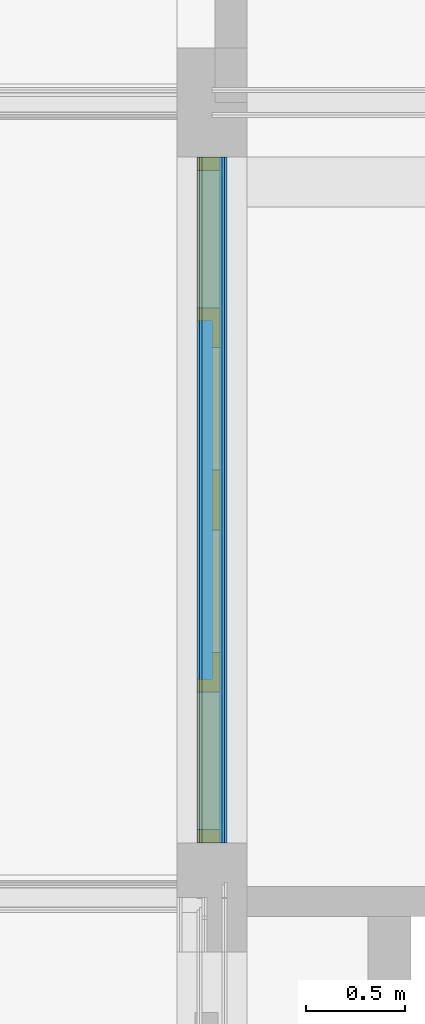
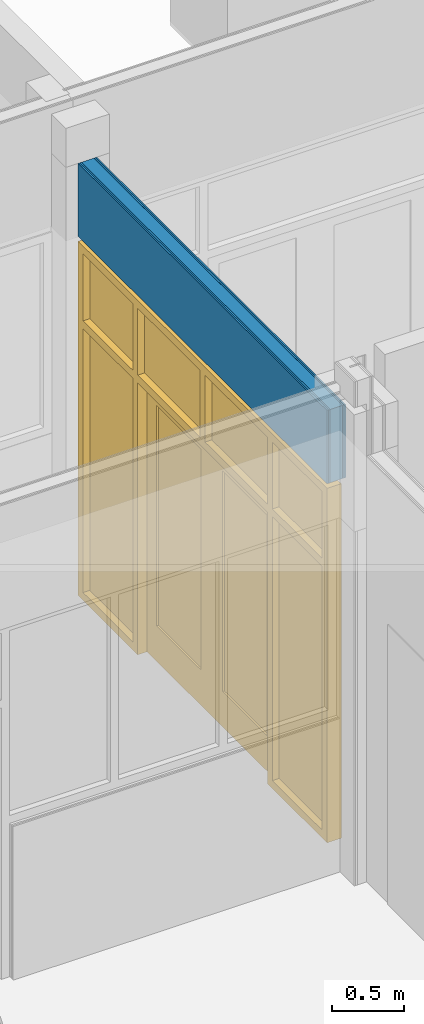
# One storey, part 41 of 54: 5 building element parts, 1 door, 1 opening, 1 element without a shape of its own.
"""IFC2X3 building model written with IfcOpenShell, lengths in millimetres."""

from ifc_helpers import new_model, entity, si_unit, converted_unit, derived_unit, money_unit, direction, frame, origin_with_axes, place, context, subcontext, project, spatial, open_shell, faceted_brep, surface_model, material, type_object, element, fill, aggregate, save


model = new_model("IFC2X3")

# Units and contexts
model_context = context("Model", 3, precision=0.01, world=origin_with_axes(), true_north=direction((0.0, 1.0)))
body_context = subcontext(model_context, "Body", "Model", "MODEL_VIEW")
ifc_project = project(units=[si_unit("LENGTHUNIT", "METRE", prefix="MILLI"), si_unit("AREAUNIT", "SQUARE_METRE"), si_unit("VOLUMEUNIT", "CUBIC_METRE"), converted_unit("PLANEANGLEUNIT", "DEGREE", entity("IfcPlaneAngleMeasure", 0.0174532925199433), si_unit("PLANEANGLEUNIT", "RADIAN"), dimensions=[0, 0, 0, 0, 0, 0, 0]), money_unit("EUR"), converted_unit("TIMEUNIT", "Year", entity("IfcTimeMeasure", 31557600.0), si_unit("TIMEUNIT", "SECOND"), dimensions=[0, 0, 1, 0, 0, 0, 0]), si_unit("MASSUNIT", "GRAM", prefix="KILO"), si_unit("THERMODYNAMICTEMPERATUREUNIT", "DEGREE_CELSIUS"), si_unit("LUMINOUSINTENSITYUNIT", "LUMEN"), si_unit("ENERGYUNIT", "JOULE", prefix="MEGA"), derived_unit("THERMALCONDUCTANCEUNIT", [(si_unit("POWERUNIT", "WATT"), 1), (si_unit("LENGTHUNIT", "METRE"), -1), (si_unit("THERMODYNAMICTEMPERATUREUNIT", "KELVIN"), -1)]), derived_unit("SPECIFICHEATCAPACITYUNIT", [(si_unit("ENERGYUNIT", "JOULE"), 1), (si_unit("MASSUNIT", "GRAM", prefix="KILO"), -1), (si_unit("THERMODYNAMICTEMPERATUREUNIT", "KELVIN"), -1)]), derived_unit("MASSDENSITYUNIT", [(si_unit("MASSUNIT", "GRAM", prefix="KILO"), 1), (si_unit("VOLUMEUNIT", "CUBIC_METRE"), -1)])], contexts=[model_context])

# Site, building, storey
site_placement = place(None, origin_with_axes())
site = spatial("IfcSite", under=ifc_project, at=site_placement, Name="<site naam>", CompositionType="ELEMENT")
building_placement = place(site_placement, origin_with_axes())
building = spatial("IfcBuilding", under=site, at=building_placement, Name="<Naam gebouw>", CompositionType="ELEMENT")
storey_placement = place(building_placement, frame((0.0, 0.0, 8500.0), z_axis=(0.0, 0.0, 1.0), x_axis=(1.0, 0.0, 0.0)))
storey = spatial("IfcBuildingStorey", under=building, at=storey_placement, Name="02 2e verdieping", CompositionType="ELEMENT", Elevation=8500.0)

# Door
door_style = type_object("IfcDoorStyle", Name="D2 bl zl2 27", ConstructionType="NOTDEFINED", OperationType="USERDEFINED", ParameterTakesPrecedence=False, Sizeable=False)
wall_placement = place(storey_placement, frame((48000.00000000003, 8275.000000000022, 0.0), z_axis=(0.0, 0.0, 1.0), x_axis=(0.0, 1.0, 0.0)))
opening_placement = place(wall_placement, frame((1725.000000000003, 0.0, 0.0), z_axis=(0.0, 0.0, 1.0), x_axis=(1.0, 0.0, 0.0)))
door_placement = place(opening_placement, frame((1724.999999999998, 0.0, 0.0), z_axis=(0.0, 0.0, 1.0), x_axis=(-1.0, 0.0, 0.0)))
door = element("IfcDoor", 1, at=door_placement, inside=storey, type_object=door_style, Name="22_BI-D-03_305", ObjectType="DOOR", OverallHeight=3000.0, OverallWidth=3450.0, context=body_context, shape_type="SurfaceModel", body=[
    faceted_brep([(3449.999999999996, 39.00000000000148, 0.0), (3449.999999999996, -74.99999999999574, 0.0), (3382.999999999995, -74.99999999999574, 0.0), (3382.999999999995, 39.00000000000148, 0.0), (3449.999999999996, 39.00000000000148, 2933.0), (3449.999999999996, -74.99999999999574, 2933.0), (3382.999999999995, -74.99999999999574, 2933.0), (3382.999999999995, -74.99999999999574, 2367.000000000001), (3382.999999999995, -74.99999999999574, 2300.000000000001), (3382.999999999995, -74.99999999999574, 67.00000000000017), (3382.999999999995, 39.00000000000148, 67.00000000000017), (3382.999999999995, 39.00000000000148, 2300.000000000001), (3382.999999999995, 39.00000000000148, 2367.000000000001), (3382.999999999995, 39.00000000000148, 2933.0)], [[[0, 1, 2, 3]], [[4, 5, 1, 0]], [[1, 5, 6, 7, 8, 9, 2]], [[3, 2, 9, 10]], [[0, 3, 10, 11, 12, 13, 4]], [[13, 6, 5, 4]], [[12, 7, 6, 13]], [[11, 8, 7, 12]], [[10, 9, 8, 11]]]),
    faceted_brep([(2624.999999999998, -0.9999999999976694, 2317.0), (2624.999999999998, -0.9999999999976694, 2300.000000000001), (2624.999999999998, -74.99999999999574, 2300.000000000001), (2624.999999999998, -74.99999999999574, 2367.000000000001), (2624.999999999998, 39.00000000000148, 2367.000000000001), (2624.999999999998, 39.00000000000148, 2317.0), (2641.999999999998, -0.9999999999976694, 2317.0), (2641.999999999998, -0.9999999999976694, 0.0), (2624.999999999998, -0.9999999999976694, 0.0), (2624.999999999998, -74.99999999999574, 0.0), (2691.999999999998, -74.99999999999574, 0.0), (2691.999999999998, -74.99999999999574, 67.00000000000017), (2691.999999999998, -74.99999999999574, 2300.000000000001), (2691.999999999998, -74.99999999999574, 2367.000000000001), (2691.999999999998, -74.99999999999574, 2933.0), (2624.999999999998, -74.99999999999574, 2933.0), (2624.999999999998, 39.00000000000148, 2933.0), (2641.999999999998, 39.00000000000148, 2317.0), (2691.999999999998, 39.00000000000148, 2933.0), (2691.999999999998, 39.00000000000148, 2367.000000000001), (2691.999999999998, 39.00000000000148, 2300.000000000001), (2691.999999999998, 39.00000000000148, 67.00000000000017), (2691.999999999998, 39.00000000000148, 0.0), (2641.999999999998, 39.00000000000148, 0.0)], [[[0, 1, 2, 3, 4, 5]], [[0, 6, 7, 8, 1]], [[8, 9, 2, 1]], [[2, 9, 10, 11, 12, 13, 14, 15, 3]], [[16, 4, 3, 15]], [[17, 5, 4, 16, 18, 19, 20, 21, 22, 23]], [[5, 17, 6, 0]], [[23, 7, 6, 17]], [[7, 23, 22, 10, 9, 8]], [[22, 21, 11, 10]], [[21, 20, 12, 11]], [[20, 19, 13, 12]], [[19, 18, 14, 13]], [[18, 16, 15, 14]]]),
    faceted_brep([(3382.999999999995, 39.00000000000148, 67.00000000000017), (3382.999999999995, -74.99999999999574, 67.00000000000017), (3382.999999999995, -74.99999999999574, 0.0), (3382.999999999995, 39.00000000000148, 0.0), (2691.999999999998, 39.00000000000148, 67.00000000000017), (2691.999999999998, -74.99999999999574, 67.00000000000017), (2691.999999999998, -74.99999999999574, 0.0), (2691.999999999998, 39.00000000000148, 0.0)], [[[0, 1, 2, 3]], [[4, 5, 1, 0]], [[1, 5, 6, 2]], [[3, 2, 6, 7]], [[0, 3, 7, 4]], [[7, 6, 5, 4]]]),
    faceted_brep([(0.0, 39.00000000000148, 0.0), (0.0, -74.99999999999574, 0.0), (0.0, -74.99999999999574, 2933.0), (0.0, 39.00000000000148, 2933.0), (67.00000000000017, 39.00000000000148, 0.0), (67.00000000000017, -74.99999999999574, 0.0), (67.00000000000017, -74.99999999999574, 67.00000000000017), (67.00000000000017, -74.99999999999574, 2300.000000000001), (67.00000000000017, -74.99999999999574, 2367.000000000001), (67.00000000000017, -74.99999999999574, 2933.0), (67.00000000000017, 39.00000000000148, 2933.0), (67.00000000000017, 39.00000000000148, 2367.000000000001), (67.00000000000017, 39.00000000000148, 2300.000000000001), (67.00000000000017, 39.00000000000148, 67.00000000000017)], [[[0, 1, 2, 3]], [[4, 5, 1, 0]], [[1, 5, 6, 7, 8, 9, 2]], [[3, 2, 9, 10]], [[0, 3, 10, 11, 12, 13, 4]], [[13, 6, 5, 4]], [[12, 7, 6, 13]], [[11, 8, 7, 12]], [[10, 9, 8, 11]]]),
    faceted_brep([(807.9999999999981, 39.00000000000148, 2317.0), (807.9999999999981, 39.00000000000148, 0.0), (757.9999999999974, 39.00000000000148, 0.0), (757.9999999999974, 39.00000000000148, 67.00000000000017), (757.9999999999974, 39.00000000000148, 2300.000000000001), (757.9999999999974, 39.00000000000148, 2367.000000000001), (757.9999999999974, 39.00000000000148, 2933.0), (824.9999999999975, 39.00000000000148, 2933.0), (824.9999999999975, 39.00000000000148, 2367.000000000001), (824.9999999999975, 39.00000000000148, 2317.0), (807.9999999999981, -0.9999999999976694, 2317.0), (807.9999999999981, -0.9999999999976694, 0.0), (824.9999999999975, -0.9999999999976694, 0.0), (824.9999999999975, -74.99999999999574, 0.0), (757.9999999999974, -74.99999999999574, 0.0), (757.9999999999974, -74.99999999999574, 67.00000000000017), (757.9999999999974, -74.99999999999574, 2300.000000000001), (757.9999999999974, -74.99999999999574, 2367.000000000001), (757.9999999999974, -74.99999999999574, 2933.0), (824.9999999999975, -74.99999999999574, 2933.0), (824.9999999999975, -74.99999999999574, 2367.000000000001), (824.9999999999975, -0.9999999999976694, 2317.0), (824.9999999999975, -74.99999999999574, 2300.000000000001), (824.9999999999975, -0.9999999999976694, 2300.000000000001)], [[[0, 1, 2, 3, 4, 5, 6, 7, 8, 9]], [[0, 10, 11, 1]], [[11, 12, 13, 14, 2, 1]], [[3, 2, 14, 15]], [[4, 3, 15, 16]], [[5, 4, 16, 17]], [[6, 5, 17, 18]], [[7, 6, 18, 19]], [[8, 7, 19, 20]], [[21, 9, 8, 20, 22, 23]], [[9, 21, 10, 0]], [[11, 10, 21, 23, 12]], [[23, 22, 13, 12]], [[15, 14, 13, 22, 20, 19, 18, 17, 16]]]),
    faceted_brep([(757.9999999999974, 39.00000000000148, 67.00000000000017), (757.9999999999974, -74.99999999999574, 67.00000000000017), (757.9999999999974, -74.99999999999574, 0.0), (757.9999999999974, 39.00000000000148, 0.0), (67.00000000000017, 39.00000000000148, 67.00000000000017), (67.00000000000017, -74.99999999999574, 67.00000000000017), (67.00000000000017, -74.99999999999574, 0.0), (67.00000000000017, 39.00000000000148, 0.0)], [[[0, 1, 2, 3]], [[4, 5, 1, 0]], [[1, 5, 6, 2]], [[3, 2, 6, 7]], [[0, 3, 7, 4]], [[7, 6, 5, 4]]]),
    faceted_brep([(3449.999999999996, 39.00000000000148, 3000.0), (3449.999999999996, -74.99999999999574, 3000.0), (3449.999999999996, -74.99999999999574, 2933.0), (3449.999999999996, 39.00000000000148, 2933.0), (0.0, 39.00000000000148, 3000.0), (0.0, -74.99999999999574, 3000.0), (0.0, -74.99999999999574, 2933.0), (67.00000000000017, -74.99999999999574, 2933.0), (757.9999999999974, -74.99999999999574, 2933.0), (824.9999999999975, -74.99999999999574, 2933.0), (2624.999999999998, -74.99999999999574, 2933.0), (2691.999999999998, -74.99999999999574, 2933.0), (3382.999999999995, -74.99999999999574, 2933.0), (3382.999999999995, 39.00000000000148, 2933.0), (2691.999999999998, 39.00000000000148, 2933.0), (2624.999999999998, 39.00000000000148, 2933.0), (824.9999999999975, 39.00000000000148, 2933.0), (757.9999999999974, 39.00000000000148, 2933.0), (67.00000000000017, 39.00000000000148, 2933.0), (0.0, 39.00000000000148, 2933.0)], [[[0, 1, 2, 3]], [[4, 5, 1, 0]], [[1, 5, 6, 7, 8, 9, 10, 11, 12, 2]], [[3, 2, 12, 13]], [[0, 3, 13, 14, 15, 16, 17, 18, 19, 4]], [[19, 6, 5, 4]], [[18, 7, 6, 19]], [[17, 8, 7, 18]], [[16, 9, 8, 17]], [[15, 10, 9, 16]], [[14, 11, 10, 15]], [[13, 12, 11, 14]]]),
    faceted_brep([(3382.999999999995, 39.00000000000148, 2300.000000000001), (3382.999999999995, -74.99999999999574, 2300.000000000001), (2691.999999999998, -74.99999999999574, 2300.000000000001), (2691.999999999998, 39.00000000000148, 2300.000000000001), (3382.999999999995, 39.00000000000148, 2367.000000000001), (3382.999999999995, -74.99999999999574, 2367.000000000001), (2691.999999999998, -74.99999999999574, 2367.000000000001), (2691.999999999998, 39.00000000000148, 2367.000000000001)], [[[0, 1, 2, 3]], [[4, 5, 1, 0]], [[1, 5, 6, 2]], [[3, 2, 6, 7]], [[0, 3, 7, 4]], [[7, 6, 5, 4]]]),
    faceted_brep([(67.00000000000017, 39.00000000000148, 2367.000000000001), (67.00000000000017, -74.99999999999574, 2367.000000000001), (757.9999999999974, -74.99999999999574, 2367.000000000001), (757.9999999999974, 39.00000000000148, 2367.000000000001), (67.00000000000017, 39.00000000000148, 2300.000000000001), (67.00000000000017, -74.99999999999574, 2300.000000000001), (757.9999999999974, -74.99999999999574, 2300.000000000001), (757.9999999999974, 39.00000000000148, 2300.000000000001)], [[[0, 1, 2, 3]], [[4, 5, 1, 0]], [[1, 5, 6, 2]], [[3, 2, 6, 7]], [[0, 3, 7, 4]], [[7, 6, 5, 4]]]),
    faceted_brep([(824.9999999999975, -0.9999999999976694, 2317.0), (824.9999999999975, -0.9999999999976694, 2300.000000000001), (824.9999999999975, -74.99999999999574, 2300.000000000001), (824.9999999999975, -74.99999999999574, 2367.000000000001), (824.9999999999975, 39.00000000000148, 2367.000000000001), (824.9999999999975, 39.00000000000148, 2317.0), (2624.999999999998, -0.9999999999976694, 2317.0), (2624.999999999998, -0.9999999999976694, 2300.000000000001), (2624.999999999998, -74.99999999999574, 2300.000000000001), (2624.999999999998, -74.99999999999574, 2367.000000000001), (2624.999999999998, 39.00000000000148, 2367.000000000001), (2624.999999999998, 39.00000000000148, 2317.0)], [[[0, 1, 2, 3, 4, 5]], [[0, 6, 7, 1]], [[7, 8, 2, 1]], [[8, 9, 3, 2]], [[10, 4, 3, 9]], [[5, 4, 10, 11]], [[5, 11, 6, 0]], [[6, 11, 10, 9, 8, 7]]]),
    faceted_brep([(807.9999999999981, 39.00000000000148, 300.0000000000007), (957.9999999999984, 39.00000000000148, 300.0000000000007), (957.9999999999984, -0.9999999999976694, 300.0000000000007), (807.9999999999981, -0.9999999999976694, 300.0000000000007), (807.9999999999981, 39.00000000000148, 2167.0), (957.9999999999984, 39.00000000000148, 2167.0), (957.9999999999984, -0.9999999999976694, 2167.0), (807.9999999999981, -0.9999999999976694, 2167.0)], [[[0, 1, 2, 3]], [[0, 4, 5, 1]], [[1, 5, 6, 2]], [[3, 2, 6, 7]], [[4, 0, 3, 7]], [[5, 4, 7, 6]]]),
    faceted_brep([(1724.999999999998, 39.00000000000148, 300.0000000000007), (1724.999999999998, 39.00000000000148, 2167.0), (1724.999999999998, -0.9999999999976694, 2167.0), (1724.999999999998, -0.9999999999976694, 300.0000000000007), (1574.999999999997, 39.00000000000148, 300.0000000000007), (1574.999999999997, 39.00000000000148, 2167.0), (1574.999999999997, -0.9999999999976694, 2167.0), (1574.999999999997, -0.9999999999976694, 300.0000000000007)], [[[0, 1, 2, 3]], [[0, 4, 5, 1]], [[1, 5, 6, 2]], [[3, 2, 6, 7]], [[4, 0, 3, 7]], [[5, 4, 7, 6]]]),
    faceted_brep([(807.9999999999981, 39.00000000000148, 0.0), (1724.999999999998, 39.00000000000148, 0.0), (1724.999999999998, -0.9999999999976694, 0.0), (807.9999999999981, -0.9999999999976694, 0.0), (807.9999999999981, 39.00000000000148, 300.0000000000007), (957.9999999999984, 39.00000000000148, 300.0000000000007), (1574.999999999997, 39.00000000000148, 300.0000000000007), (1724.999999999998, 39.00000000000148, 300.0000000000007), (1724.999999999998, -0.9999999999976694, 300.0000000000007), (1574.999999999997, -0.9999999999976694, 300.0000000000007), (957.9999999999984, -0.9999999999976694, 300.0000000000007), (807.9999999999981, -0.9999999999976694, 300.0000000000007)], [[[0, 1, 2, 3]], [[0, 4, 5, 6, 7, 1]], [[1, 7, 8, 2]], [[3, 2, 8, 9, 10, 11]], [[4, 0, 3, 11]], [[5, 4, 11, 10]], [[6, 5, 10, 9]], [[7, 6, 9, 8]]]),
    faceted_brep([(807.9999999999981, 39.00000000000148, 2317.0), (807.9999999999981, 39.00000000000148, 2167.0), (807.9999999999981, -0.9999999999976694, 2167.0), (807.9999999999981, -0.9999999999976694, 2317.0), (1724.999999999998, 39.00000000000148, 2317.0), (1724.999999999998, 39.00000000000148, 2167.0), (1574.999999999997, 39.00000000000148, 2167.0), (957.9999999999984, 39.00000000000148, 2167.0), (957.9999999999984, -0.9999999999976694, 2167.0), (1574.999999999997, -0.9999999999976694, 2167.0), (1724.999999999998, -0.9999999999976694, 2167.0), (1724.999999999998, -0.9999999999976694, 2317.0)], [[[0, 1, 2, 3]], [[0, 4, 5, 6, 7, 1]], [[1, 7, 8, 2]], [[3, 2, 8, 9, 10, 11]], [[4, 0, 3, 11]], [[5, 4, 11, 10]], [[6, 5, 10, 9]], [[7, 6, 9, 8]]]),
    surface_model("IfcShellBasedSurfaceModel", [(957.9999999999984, 24.99999999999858, 300.0000000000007), (957.9999999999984, 24.99999999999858, 2167.0), (1574.999999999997, 24.99999999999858, 2167.0), (1574.999999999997, 24.99999999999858, 300.0000000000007)], [open_shell([[[0, 1, 2, 3]]])]),
    surface_model("IfcShellBasedSurfaceModel", [(957.9999999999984, 12.99999999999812, 300.0000000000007), (1574.999999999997, 12.99999999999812, 300.0000000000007), (1574.999999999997, 12.99999999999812, 2167.0), (957.9999999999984, 12.99999999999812, 2167.0)], [open_shell([[[0, 1, 2, 3]]])]),
    faceted_brep([(2641.999999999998, 39.00000000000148, 300.0000000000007), (2641.999999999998, -0.9999999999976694, 300.0000000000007), (2491.999999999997, -0.9999999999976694, 300.0000000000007), (2491.999999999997, 39.00000000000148, 300.0000000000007), (2641.999999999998, 39.00000000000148, 2167.0), (2641.999999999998, -0.9999999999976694, 2167.0), (2491.999999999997, -0.9999999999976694, 2167.0), (2491.999999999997, 39.00000000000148, 2167.0)], [[[0, 1, 2, 3]], [[4, 5, 1, 0]], [[1, 5, 6, 2]], [[3, 2, 6, 7]], [[0, 3, 7, 4]], [[7, 6, 5, 4]]]),
    faceted_brep([(1724.999999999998, 39.00000000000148, 300.0000000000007), (1724.999999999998, -0.9999999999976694, 300.0000000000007), (1724.999999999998, -0.9999999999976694, 2167.0), (1724.999999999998, 39.00000000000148, 2167.0), (1874.999999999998, 39.00000000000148, 300.0000000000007), (1874.999999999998, -0.9999999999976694, 300.0000000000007), (1874.999999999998, -0.9999999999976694, 2167.0), (1874.999999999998, 39.00000000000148, 2167.0)], [[[0, 1, 2, 3]], [[4, 5, 1, 0]], [[1, 5, 6, 2]], [[3, 2, 6, 7]], [[0, 3, 7, 4]], [[7, 6, 5, 4]]]),
    faceted_brep([(2641.999999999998, 39.00000000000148, 0.0), (2641.999999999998, -0.9999999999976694, 0.0), (1724.999999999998, -0.9999999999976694, 0.0), (1724.999999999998, 39.00000000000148, 0.0), (2641.999999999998, 39.00000000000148, 300.0000000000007), (2641.999999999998, -0.9999999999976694, 300.0000000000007), (2491.999999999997, -0.9999999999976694, 300.0000000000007), (1874.999999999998, -0.9999999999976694, 300.0000000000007), (1724.999999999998, -0.9999999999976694, 300.0000000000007), (1724.999999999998, 39.00000000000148, 300.0000000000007), (1874.999999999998, 39.00000000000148, 300.0000000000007), (2491.999999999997, 39.00000000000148, 300.0000000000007)], [[[0, 1, 2, 3]], [[4, 5, 1, 0]], [[1, 5, 6, 7, 8, 2]], [[3, 2, 8, 9]], [[0, 3, 9, 10, 11, 4]], [[11, 6, 5, 4]], [[10, 7, 6, 11]], [[9, 8, 7, 10]]]),
    faceted_brep([(2641.999999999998, 39.00000000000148, 2317.0), (2641.999999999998, -0.9999999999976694, 2317.0), (2641.999999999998, -0.9999999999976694, 2167.0), (2641.999999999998, 39.00000000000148, 2167.0), (1724.999999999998, 39.00000000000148, 2317.0), (1724.999999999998, -0.9999999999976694, 2317.0), (1724.999999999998, -0.9999999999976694, 2167.0), (1874.999999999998, -0.9999999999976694, 2167.0), (2491.999999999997, -0.9999999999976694, 2167.0), (2491.999999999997, 39.00000000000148, 2167.0), (1874.999999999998, 39.00000000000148, 2167.0), (1724.999999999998, 39.00000000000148, 2167.0)], [[[0, 1, 2, 3]], [[4, 5, 1, 0]], [[1, 5, 6, 7, 8, 2]], [[3, 2, 8, 9]], [[0, 3, 9, 10, 11, 4]], [[11, 6, 5, 4]], [[10, 7, 6, 11]], [[9, 8, 7, 10]]]),
    surface_model("IfcShellBasedSurfaceModel", [(2491.999999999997, 24.99999999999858, 300.0000000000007), (1874.999999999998, 24.99999999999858, 300.0000000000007), (1874.999999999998, 24.99999999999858, 2167.0), (2491.999999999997, 24.99999999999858, 2167.0)], [open_shell([[[0, 1, 2, 3]]])]),
    surface_model("IfcShellBasedSurfaceModel", [(2491.999999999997, 12.99999999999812, 300.0000000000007), (2491.999999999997, 12.99999999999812, 2167.0), (1874.999999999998, 12.99999999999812, 2167.0), (1874.999999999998, 12.99999999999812, 300.0000000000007)], [open_shell([[[0, 1, 2, 3]]])]),
    surface_model("IfcShellBasedSurfaceModel", [(3382.999999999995, -21.0000000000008, 2367.000000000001), (3382.999999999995, -21.0000000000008, 2933.0), (2691.999999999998, -21.0000000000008, 2933.0), (2691.999999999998, -21.0000000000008, 2367.000000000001)], [open_shell([[[0, 1, 2, 3]]])]),
    surface_model("IfcShellBasedSurfaceModel", [(3382.999999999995, -9.000000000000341, 2367.000000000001), (2691.999999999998, -9.000000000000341, 2367.000000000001), (2691.999999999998, -9.000000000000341, 2933.0), (3382.999999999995, -9.000000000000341, 2933.0)], [open_shell([[[0, 1, 2, 3]]])]),
    surface_model("IfcShellBasedSurfaceModel", [(1758.499999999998, -21.0000000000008, 2367.000000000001), (2624.999999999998, -21.0000000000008, 2367.000000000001), (2624.999999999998, -21.0000000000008, 2933.0), (1758.499999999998, -21.0000000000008, 2933.0)], [open_shell([[[0, 1, 2, 3]]])]),
    surface_model("IfcShellBasedSurfaceModel", [(1758.499999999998, -9.000000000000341, 2367.000000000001), (1758.499999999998, -9.000000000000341, 2933.0), (2624.999999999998, -9.000000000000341, 2933.0), (2624.999999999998, -9.000000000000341, 2367.000000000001)], [open_shell([[[0, 1, 2, 3]]])]),
    surface_model("IfcShellBasedSurfaceModel", [(824.9999999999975, -21.0000000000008, 2367.000000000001), (1691.499999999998, -21.0000000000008, 2367.000000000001), (1691.499999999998, -21.0000000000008, 2933.0), (824.9999999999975, -21.0000000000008, 2933.0)], [open_shell([[[0, 1, 2, 3]]])]),
    surface_model("IfcShellBasedSurfaceModel", [(824.9999999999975, -9.000000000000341, 2367.000000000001), (824.9999999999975, -9.000000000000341, 2933.0), (1691.499999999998, -9.000000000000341, 2933.0), (1691.499999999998, -9.000000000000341, 2367.000000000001)], [open_shell([[[0, 1, 2, 3]]])]),
    faceted_brep([(1758.499999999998, -74.99999999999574, 2367.000000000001), (1691.499999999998, -74.99999999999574, 2367.000000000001), (1691.499999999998, 39.00000000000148, 2367.000000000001), (1758.499999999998, 39.00000000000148, 2367.000000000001), (1758.499999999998, -74.99999999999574, 2933.0), (1691.499999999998, -74.99999999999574, 2933.0), (1691.499999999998, 39.00000000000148, 2933.0), (1758.499999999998, 39.00000000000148, 2933.0)], [[[0, 1, 2, 3]], [[0, 4, 5, 1]], [[1, 5, 6, 2]], [[3, 2, 6, 7]], [[4, 0, 3, 7]], [[5, 4, 7, 6]]]),
    surface_model("IfcShellBasedSurfaceModel", [(757.9999999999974, -21.0000000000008, 2367.000000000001), (757.9999999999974, -21.0000000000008, 2933.0), (67.00000000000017, -21.0000000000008, 2933.0), (67.00000000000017, -21.0000000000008, 2367.000000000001)], [open_shell([[[0, 1, 2, 3]]])]),
    surface_model("IfcShellBasedSurfaceModel", [(757.9999999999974, -9.000000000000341, 2367.000000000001), (67.00000000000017, -9.000000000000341, 2367.000000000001), (67.00000000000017, -9.000000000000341, 2933.0), (757.9999999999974, -9.000000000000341, 2933.0)], [open_shell([[[0, 1, 2, 3]]])]),
    surface_model("IfcShellBasedSurfaceModel", [(3382.999999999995, -21.0000000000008, 67.00000000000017), (3382.999999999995, -21.0000000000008, 2300.000000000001), (2691.999999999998, -21.0000000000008, 2300.000000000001), (2691.999999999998, -21.0000000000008, 67.00000000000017)], [open_shell([[[0, 1, 2, 3]]])]),
    surface_model("IfcShellBasedSurfaceModel", [(3382.999999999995, -9.000000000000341, 67.00000000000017), (2691.999999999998, -9.000000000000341, 67.00000000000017), (2691.999999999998, -9.000000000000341, 2300.000000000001), (3382.999999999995, -9.000000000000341, 2300.000000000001)], [open_shell([[[0, 1, 2, 3]]])]),
    surface_model("IfcShellBasedSurfaceModel", [(757.9999999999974, -21.0000000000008, 67.00000000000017), (757.9999999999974, -21.0000000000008, 2300.000000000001), (67.00000000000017, -21.0000000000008, 2300.000000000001), (67.00000000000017, -21.0000000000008, 67.00000000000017)], [open_shell([[[0, 1, 2, 3]]])]),
    surface_model("IfcShellBasedSurfaceModel", [(757.9999999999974, -9.000000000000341, 67.00000000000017), (67.00000000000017, -9.000000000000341, 67.00000000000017), (67.00000000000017, -9.000000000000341, 2300.000000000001), (757.9999999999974, -9.000000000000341, 2300.000000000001)], [open_shell([[[0, 1, 2, 3]]])]),
])

# Wall, opening
wall_type = type_object("IfcWallType", Name="MS-01 GF 150 ECO DGS/2.100.2.A 150", PredefinedType="NOTDEFINED")
wall = element("IfcWall", 2, at=wall_placement, inside=storey, type_object=wall_type, Name="22_Binnenwand_MS-01")
opening = element("IfcOpeningElement", 3, at=opening_placement, cuts=wall, Name="22_BI-D-03_305", context=body_context, shape_type="Brep", body=[
    faceted_brep([(-1724.999999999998, -76.00000000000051, 3000.0), (-1724.999999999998, -76.00000000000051, 0.0), (1724.999999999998, -76.00000000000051, 0.0), (1724.999999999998, -76.00000000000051, 3000.0), (-1724.999999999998, 76.00000000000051, 3000.0), (-1724.999999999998, 76.00000000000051, 0.0), (1724.999999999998, 76.00000000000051, 0.0), (1724.999999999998, 76.00000000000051, 3000.0)], [[[0, 1, 2, 3]], [[4, 5, 1, 0]], [[5, 6, 2, 1]], [[6, 7, 3, 2]], [[7, 4, 0, 3]], [[6, 5, 4, 7]]]),
])

fill(opening, door)

# Building element part
ifc_material_1 = material(Name="gipsplaat")
building_element_part_1_placement = place(wall_placement, origin_with_axes())
building_element_part_1 = element("IfcBuildingElementPart", 4, at=building_element_part_1_placement, material=ifc_material_1, Name="gipsplaat", context=body_context, shape_type="Brep", body=[
    faceted_brep([(3449.999999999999, 75.00000000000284, 3660.0), (3449.999999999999, 62.5, 3660.0), (3449.999999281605, 62.5, 3039.999999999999), (3449.999999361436, 75.00000000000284, 3039.999999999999), (0.0, 62.5, 3660.0), (0.0, 75.00000000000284, 3660.0), (0.0, 62.5, 3039.999999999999), (0.0, 75.00000000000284, 3039.999999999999)], [[[0, 1, 2, 3]], [[4, 1, 0, 5]], [[1, 4, 6, 2]], [[6, 7, 3, 2]], [[5, 0, 3, 7]], [[4, 5, 7, 6]]]),
    faceted_brep([(0.0, 62.5, 3.000000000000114), (3449.99999999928, 62.5, 3.000000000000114), (3449.999999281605, 62.5, 3000.0), (0.0, 62.5, 3000.0), (3449.999999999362, 75.00000000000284, 3.000000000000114), (0.0, 75.00000000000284, 3.000000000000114), (3449.999999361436, 75.00000000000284, 3000.0), (0.0, 75.00000000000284, 3000.0)], [[[0, 1, 2, 3]], [[4, 1, 0, 5]], [[1, 4, 6, 2]], [[3, 2, 6, 7]], [[5, 0, 3, 7]], [[4, 5, 7, 6]]]),
])

building_element_part_2_placement = place(wall_placement, origin_with_axes())
building_element_part_2 = element("IfcBuildingElementPart", 5, at=building_element_part_2_placement, material=ifc_material_1, Name="gipsplaat", context=body_context, shape_type="Brep", body=[
    faceted_brep([(3449.999999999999, 62.5, 3660.0), (3449.999999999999, 49.99999999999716, 3660.0), (3449.999999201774, 49.99999999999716, 3039.999999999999), (3449.999999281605, 62.5, 3039.999999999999), (0.0, 49.99999999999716, 3660.0), (0.0, 62.5, 3660.0), (0.0, 49.99999999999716, 3039.999999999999), (0.0, 62.5, 3039.999999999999)], [[[0, 1, 2, 3]], [[4, 1, 0, 5]], [[1, 4, 6, 2]], [[6, 7, 3, 2]], [[5, 0, 3, 7]], [[4, 5, 7, 6]]]),
    faceted_brep([(0.0, 49.99999999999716, 3.000000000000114), (3449.999999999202, 49.99999999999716, 3.000000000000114), (3449.999999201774, 49.99999999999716, 3000.0), (0.0, 49.99999999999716, 3000.0), (3449.99999999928, 62.5, 3.000000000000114), (0.0, 62.5, 3.000000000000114), (3449.999999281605, 62.5, 3000.0), (0.0, 62.5, 3000.0)], [[[0, 1, 2, 3]], [[4, 1, 0, 5]], [[1, 4, 6, 2]], [[3, 2, 6, 7]], [[5, 0, 3, 7]], [[4, 5, 7, 6]]]),
])

building_element_part_3_placement = place(wall_placement, origin_with_axes())
building_element_part_3 = element("IfcBuildingElementPart", 6, at=building_element_part_3_placement, material=ifc_material_1, Name="gipsplaat", context=body_context, shape_type="Brep", body=[
    faceted_brep([(3449.999999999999, -49.99999999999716, 3660.0), (3449.999999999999, -62.5, 3660.0), (3449.999998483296, -62.5, 3039.999999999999), (3449.999998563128, -49.99999999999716, 3039.999999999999), (0.0, -62.5, 3660.0), (0.0, -49.99999999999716, 3660.0), (0.0, -62.5, 3039.999999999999), (0.0, -49.99999999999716, 3039.999999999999)], [[[0, 1, 2, 3]], [[4, 1, 0, 5]], [[1, 4, 6, 2]], [[6, 7, 3, 2]], [[5, 0, 3, 7]], [[4, 5, 7, 6]]]),
    faceted_brep([(0.0, -62.5, 3.000000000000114), (3449.999999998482, -62.5, 3.000000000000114), (3449.999998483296, -62.5, 3000.0), (0.0, -62.5, 3000.0), (3449.999999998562, -49.99999999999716, 3.000000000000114), (0.0, -49.99999999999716, 3.000000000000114), (3449.999998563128, -49.99999999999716, 3000.0), (0.0, -49.99999999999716, 3000.0)], [[[0, 1, 2, 3]], [[4, 1, 0, 5]], [[1, 4, 6, 2]], [[3, 2, 6, 7]], [[5, 0, 3, 7]], [[4, 5, 7, 6]]]),
])

ifc_material_2 = material(Name="isolatie_steenwol LSW")
building_element_part_4_placement = place(wall_placement, origin_with_axes())
building_element_part_4 = element("IfcBuildingElementPart", 7, at=building_element_part_4_placement, material=ifc_material_2, Name="isolatie_steenwol LSW", context=body_context, shape_type="Brep", body=[
    faceted_brep([(3449.999999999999, 49.99999999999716, 3660.0), (3449.999999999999, -49.99999999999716, 3660.0), (3449.999998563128, -49.99999999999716, 3039.999999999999), (3449.999999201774, 49.99999999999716, 3039.999999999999), (0.0, -49.99999999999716, 3660.0), (0.0, 49.99999999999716, 3660.0), (0.0, -49.99999999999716, 3039.999999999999), (0.0, 49.99999999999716, 3039.999999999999)], [[[0, 1, 2, 3]], [[4, 1, 0, 5]], [[1, 4, 6, 2]], [[6, 7, 3, 2]], [[5, 0, 3, 7]], [[4, 5, 7, 6]]]),
    faceted_brep([(0.0, -49.99999999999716, 3.000000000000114), (3449.999999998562, -49.99999999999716, 3.000000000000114), (3449.999998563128, -49.99999999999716, 3000.0), (0.0, -49.99999999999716, 3000.0), (3449.999999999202, 49.99999999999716, 3.000000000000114), (0.0, 49.99999999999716, 3.000000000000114), (3449.999999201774, 49.99999999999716, 3000.0), (0.0, 49.99999999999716, 3000.0)], [[[0, 1, 2, 3]], [[4, 1, 0, 5]], [[1, 4, 6, 2]], [[3, 2, 6, 7]], [[5, 0, 3, 7]], [[4, 5, 7, 6]]]),
])

building_element_part_5_placement = place(wall_placement, origin_with_axes())
building_element_part_5 = element("IfcBuildingElementPart", 8, at=building_element_part_5_placement, material=ifc_material_1, Name="gipsplaat", context=body_context, shape_type="Brep", body=[
    faceted_brep([(3449.999999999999, -62.5, 3660.0), (3449.999999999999, -75.00000000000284, 3660.0), (3449.999998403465, -75.00000000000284, 3039.999999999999), (3449.999998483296, -62.5, 3039.999999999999), (0.0, -75.00000000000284, 3660.0), (0.0, -62.5, 3660.0), (0.0, -75.00000000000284, 3039.999999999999), (0.0, -62.5, 3039.999999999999)], [[[0, 1, 2, 3]], [[4, 1, 0, 5]], [[1, 4, 6, 2]], [[6, 7, 3, 2]], [[5, 0, 3, 7]], [[4, 5, 7, 6]]]),
    faceted_brep([(0.0, -75.00000000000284, 3.000000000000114), (3449.999999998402, -75.00000000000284, 3.000000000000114), (3449.999998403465, -75.00000000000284, 3000.0), (0.0, -75.00000000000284, 3000.0), (3449.999999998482, -62.5, 3.000000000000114), (0.0, -62.5, 3.000000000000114), (3449.999998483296, -62.5, 3000.0), (0.0, -62.5, 3000.0)], [[[0, 1, 2, 3]], [[4, 1, 0, 5]], [[1, 4, 6, 2]], [[3, 2, 6, 7]], [[5, 0, 3, 7]], [[4, 5, 7, 6]]]),
])

aggregate(wall, [building_element_part_1, building_element_part_2, building_element_part_3, building_element_part_4, building_element_part_5])

save(model, "model.ifc")
